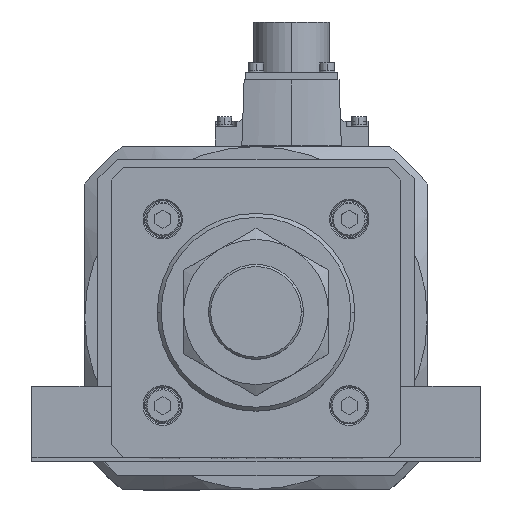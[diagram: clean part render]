
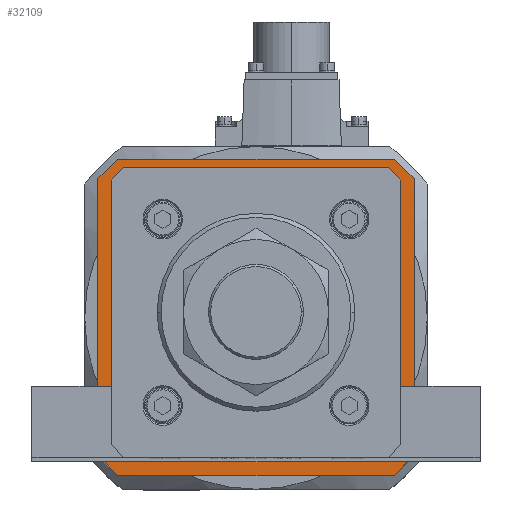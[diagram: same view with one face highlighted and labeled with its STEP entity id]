
A CAD part, top view. The second image highlights one B-rep face of the part: STEP entity #32109.
In plain terms, the highlighted planar face has unit normal (0, 0, 1).
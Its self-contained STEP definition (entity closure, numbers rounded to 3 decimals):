
#94 = EDGE_CURVE ( 'NONE', #25942, #11086, #15663, .T. ) ;
#266 = DIRECTION ( 'NONE',  ( 1., 0., 0. ) ) ;
#276 = VECTOR ( 'NONE', #10757, 1000. ) ;
#579 = VERTEX_POINT ( 'NONE', #22343 ) ;
#752 = ORIENTED_EDGE ( 'NONE', *, *, #37712, .T. ) ;
#1086 = VECTOR ( 'NONE', #37442, 1000. ) ;
#1668 = ORIENTED_EDGE ( 'NONE', *, *, #36266, .F. ) ;
#1740 = LINE ( 'NONE', #20410, #14967 ) ;
#2308 = DIRECTION ( 'NONE',  ( 0., -1., 0. ) ) ;
#2411 = CARTESIAN_POINT ( 'NONE',  ( -49.593, 53.5, -119. ) ) ;
#2564 = CARTESIAN_POINT ( 'NONE',  ( -53.646, -49.446, -119. ) ) ;
#2611 = VERTEX_POINT ( 'NONE', #22322 ) ;
#2948 = LINE ( 'NONE', #36199, #31170 ) ;
#2974 = CARTESIAN_POINT ( 'NONE',  ( -53.5, 49.593, -119. ) ) ;
#3913 = VERTEX_POINT ( 'NONE', #7374 ) ;
#3969 = VERTEX_POINT ( 'NONE', #27841 ) ;
#4479 = DIRECTION ( 'NONE',  ( 0., 1., 0. ) ) ;
#4545 = LINE ( 'NONE', #31304, #20483 ) ;
#5393 = VERTEX_POINT ( 'NONE', #6637 ) ;
#5671 = DIRECTION ( 'NONE',  ( -0.707, 0.707, 0. ) ) ;
#5929 = CARTESIAN_POINT ( 'NONE',  ( 49.593, -53.5, -119. ) ) ;
#6637 = CARTESIAN_POINT ( 'NONE',  ( -53.5, -49.593, -119. ) ) ;
#6662 = VERTEX_POINT ( 'NONE', #7352 ) ;
#6911 = EDGE_CURVE ( 'NONE', #11086, #33209, #18882, .T. ) ;
#7141 = EDGE_CURVE ( 'NONE', #3969, #25942, #2948, .T. ) ;
#7352 = CARTESIAN_POINT ( 'NONE',  ( 60., 52.5, -119. ) ) ;
#7364 = VERTEX_POINT ( 'NONE', #11497 ) ;
#7367 = ORIENTED_EDGE ( 'NONE', *, *, #22477, .T. ) ;
#7374 = CARTESIAN_POINT ( 'NONE',  ( -52.5, 60., -119. ) ) ;
#7515 = EDGE_CURVE ( 'NONE', #18545, #16967, #14318, .T. ) ;
#7669 = CARTESIAN_POINT ( 'NONE',  ( 53.5, -49.8, -119. ) ) ;
#7685 = EDGE_CURVE ( 'NONE', #5393, #14805, #30675, .T. ) ;
#7890 = CARTESIAN_POINT ( 'NONE',  ( 52.5, -60., -119. ) ) ;
#8030 = LINE ( 'NONE', #28187, #276 ) ;
#8914 = ORIENTED_EDGE ( 'NONE', *, *, #10253, .T. ) ;
#9037 = ORIENTED_EDGE ( 'NONE', *, *, #7515, .T. ) ;
#9191 = EDGE_CURVE ( 'NONE', #27195, #14377, #11440, .T. ) ;
#9262 = EDGE_CURVE ( 'NONE', #10673, #2611, #36957, .T. ) ;
#9513 = DIRECTION ( 'NONE',  ( -0.707, -0.707, 0. ) ) ;
#9695 = DIRECTION ( 'NONE',  ( 0., -1., 0. ) ) ;
#9783 = VECTOR ( 'NONE', #4479, 1000. ) ;
#10216 = LINE ( 'NONE', #21262, #17060 ) ;
#10253 = EDGE_CURVE ( 'NONE', #16967, #10673, #15956, .T. ) ;
#10673 = VERTEX_POINT ( 'NONE', #35942 ) ;
#10757 = DIRECTION ( 'NONE',  ( 1., 0., 0. ) ) ;
#10908 = CARTESIAN_POINT ( 'NONE',  ( -60., -52.5, -119. ) ) ;
#11086 = VERTEX_POINT ( 'NONE', #23757 ) ;
#11440 = LINE ( 'NONE', #33869, #20061 ) ;
#11497 = CARTESIAN_POINT ( 'NONE',  ( 52.5, 60., -119. ) ) ;
#11842 = ORIENTED_EDGE ( 'NONE', *, *, #27089, .T. ) ;
#12174 = VECTOR ( 'NONE', #9513, 1000. ) ;
#12777 = CARTESIAN_POINT ( 'NONE',  ( 49.8, 53.5, -119. ) ) ;
#13099 = ORIENTED_EDGE ( 'NONE', *, *, #9191, .T. ) ;
#14318 = LINE ( 'NONE', #12777, #23809 ) ;
#14377 = VERTEX_POINT ( 'NONE', #24627 ) ;
#14805 = VERTEX_POINT ( 'NONE', #2974 ) ;
#14842 = ORIENTED_EDGE ( 'NONE', *, *, #7685, .T. ) ;
#14959 = CARTESIAN_POINT ( 'NONE',  ( -52.5, -60., -119. ) ) ;
#14967 = VECTOR ( 'NONE', #23325, 1000. ) ;
#15663 = LINE ( 'NONE', #21252, #25641 ) ;
#15921 = DIRECTION ( 'NONE',  ( 0., 1., 0. ) ) ;
#15956 = LINE ( 'NONE', #28442, #16417 ) ;
#16284 = DIRECTION ( 'NONE',  ( 0.707, 0.707, 0. ) ) ;
#16417 = VECTOR ( 'NONE', #19369, 1000. ) ;
#16441 = PLANE ( 'NONE',  #34102 ) ;
#16544 = ORIENTED_EDGE ( 'NONE', *, *, #25922, .F. ) ;
#16967 = VERTEX_POINT ( 'NONE', #27631 ) ;
#16997 = DIRECTION ( 'NONE',  ( 0.707, -0.707, 0. ) ) ;
#17060 = VECTOR ( 'NONE', #9695, 1000. ) ;
#17815 = FACE_OUTER_BOUND ( 'NONE', #32323, .T. ) ;
#18011 = CARTESIAN_POINT ( 'NONE',  ( 49.446, -53.646, -119. ) ) ;
#18545 = VERTEX_POINT ( 'NONE', #2411 ) ;
#18882 = LINE ( 'NONE', #14959, #25723 ) ;
#18975 = DIRECTION ( 'NONE',  ( -0.707, -0.707, 0. ) ) ;
#19369 = DIRECTION ( 'NONE',  ( 0.707, -0.707, 0. ) ) ;
#20061 = VECTOR ( 'NONE', #36693, 1000. ) ;
#20410 = CARTESIAN_POINT ( 'NONE',  ( -49.446, 53.646, -119. ) ) ;
#20483 = VECTOR ( 'NONE', #16284, 1000. ) ;
#20671 = ORIENTED_EDGE ( 'NONE', *, *, #94, .F. ) ;
#21252 = CARTESIAN_POINT ( 'NONE',  ( 52.5, -60., -119. ) ) ;
#21262 = CARTESIAN_POINT ( 'NONE',  ( 60., 52.5, -119. ) ) ;
#21460 = VECTOR ( 'NONE', #2308, 1000. ) ;
#22322 = CARTESIAN_POINT ( 'NONE',  ( 53.5, -49.593, -119. ) ) ;
#22343 = CARTESIAN_POINT ( 'NONE',  ( -60., 52.5, -119. ) ) ;
#22477 = EDGE_CURVE ( 'NONE', #2611, #27195, #27624, .T. ) ;
#23325 = DIRECTION ( 'NONE',  ( 0.707, 0.707, 0. ) ) ;
#23475 = LINE ( 'NONE', #28321, #29891 ) ;
#23703 = FACE_BOUND ( 'NONE', #33933, .T. ) ;
#23757 = CARTESIAN_POINT ( 'NONE',  ( -52.5, -60., -119. ) ) ;
#23809 = VECTOR ( 'NONE', #266, 1000. ) ;
#24108 = EDGE_CURVE ( 'NONE', #6662, #3969, #10216, .T. ) ;
#24287 = ORIENTED_EDGE ( 'NONE', *, *, #24108, .F. ) ;
#24627 = CARTESIAN_POINT ( 'NONE',  ( -49.593, -53.5, -119. ) ) ;
#24729 = VECTOR ( 'NONE', #15921, 1000. ) ;
#25641 = VECTOR ( 'NONE', #36021, 1000. ) ;
#25723 = VECTOR ( 'NONE', #5671, 1000. ) ;
#25922 = EDGE_CURVE ( 'NONE', #579, #3913, #4545, .T. ) ;
#25942 = VERTEX_POINT ( 'NONE', #7890 ) ;
#26545 = LINE ( 'NONE', #2564, #1086 ) ;
#27089 = EDGE_CURVE ( 'NONE', #14805, #18545, #1740, .T. ) ;
#27195 = VERTEX_POINT ( 'NONE', #5929 ) ;
#27482 = CARTESIAN_POINT ( 'NONE',  ( -53.5, 49.8, -119. ) ) ;
#27624 = LINE ( 'NONE', #18011, #12174 ) ;
#27631 = CARTESIAN_POINT ( 'NONE',  ( 49.593, 53.5, -119. ) ) ;
#27841 = CARTESIAN_POINT ( 'NONE',  ( 60., -52.5, -119. ) ) ;
#28187 = CARTESIAN_POINT ( 'NONE',  ( 52.5, 60., -119. ) ) ;
#28288 = DIRECTION ( 'NONE',  ( 1., 0., 0. ) ) ;
#28321 = CARTESIAN_POINT ( 'NONE',  ( 60., 52.5, -119. ) ) ;
#28442 = CARTESIAN_POINT ( 'NONE',  ( 53.646, 49.446, -119. ) ) ;
#28685 = EDGE_CURVE ( 'NONE', #3913, #7364, #8030, .T. ) ;
#29045 = ORIENTED_EDGE ( 'NONE', *, *, #37552, .F. ) ;
#29784 = LINE ( 'NONE', #30585, #9783 ) ;
#29891 = VECTOR ( 'NONE', #16997, 1000. ) ;
#30027 = ORIENTED_EDGE ( 'NONE', *, *, #9262, .T. ) ;
#30585 = CARTESIAN_POINT ( 'NONE',  ( -60., 52.5, -119. ) ) ;
#30675 = LINE ( 'NONE', #27482, #24729 ) ;
#31170 = VECTOR ( 'NONE', #18975, 1000. ) ;
#31208 = DIRECTION ( 'NONE',  ( 0., 0., 1. ) ) ;
#31304 = CARTESIAN_POINT ( 'NONE',  ( -52.5, 60., -119. ) ) ;
#31825 = ORIENTED_EDGE ( 'NONE', *, *, #7141, .F. ) ;
#31980 = ORIENTED_EDGE ( 'NONE', *, *, #6911, .F. ) ;
#32109 = ADVANCED_FACE ( 'NONE', ( #23703, #17815 ), #16441, .T. ) ;
#32323 = EDGE_LOOP ( 'NONE', ( #35551, #16544, #29045, #31980, #20671, #31825, #24287, #1668 ) ) ;
#33209 = VERTEX_POINT ( 'NONE', #10908 ) ;
#33869 = CARTESIAN_POINT ( 'NONE',  ( -49.8, -53.5, -119. ) ) ;
#33933 = EDGE_LOOP ( 'NONE', ( #9037, #8914, #30027, #7367, #13099, #752, #14842, #11842 ) ) ;
#34102 = AXIS2_PLACEMENT_3D ( 'NONE', #36583, #31208, #28288 ) ;
#35551 = ORIENTED_EDGE ( 'NONE', *, *, #28685, .F. ) ;
#35942 = CARTESIAN_POINT ( 'NONE',  ( 53.5, 49.593, -119. ) ) ;
#36021 = DIRECTION ( 'NONE',  ( -1., 0., 0. ) ) ;
#36199 = CARTESIAN_POINT ( 'NONE',  ( 60., -52.5, -119. ) ) ;
#36266 = EDGE_CURVE ( 'NONE', #7364, #6662, #23475, .T. ) ;
#36583 = CARTESIAN_POINT ( 'NONE',  ( 0., 0., -119. ) ) ;
#36693 = DIRECTION ( 'NONE',  ( -1., 0., 0. ) ) ;
#36957 = LINE ( 'NONE', #7669, #21460 ) ;
#37442 = DIRECTION ( 'NONE',  ( -0.707, 0.707, 0. ) ) ;
#37552 = EDGE_CURVE ( 'NONE', #33209, #579, #29784, .T. ) ;
#37712 = EDGE_CURVE ( 'NONE', #14377, #5393, #26545, .T. ) ;
